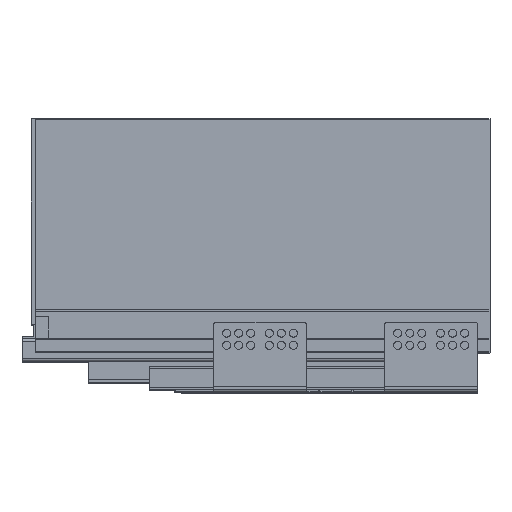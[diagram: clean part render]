
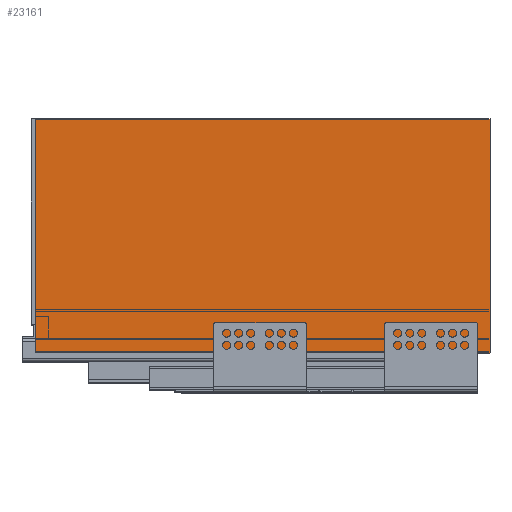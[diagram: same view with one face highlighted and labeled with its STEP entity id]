
A CAD part, top view. The second image highlights one B-rep face of the part: STEP entity #23161.
In plain terms, the highlighted planar face has unit normal (0, 0, 1).
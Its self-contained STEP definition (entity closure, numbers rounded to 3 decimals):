
#564=PLANE('',#24538);
#1511=FACE_OUTER_BOUND('',#2786,.T.);
#2786=EDGE_LOOP('',(#16185,#16186,#16187,#16188));
#4489=LINE('',#33407,#7120);
#4491=LINE('',#33411,#7122);
#4492=LINE('',#33413,#7123);
#4493=LINE('',#33414,#7124);
#7120=VECTOR('',#26883,10.);
#7122=VECTOR('',#26887,10.);
#7123=VECTOR('',#26888,10.);
#7124=VECTOR('',#26889,10.);
#10337=VERTEX_POINT('',#33404);
#10338=VERTEX_POINT('',#33406);
#10339=VERTEX_POINT('',#33410);
#10340=VERTEX_POINT('',#33412);
#12654=EDGE_CURVE('',#10337,#10338,#4489,.T.);
#12656=EDGE_CURVE('',#10337,#10339,#4491,.T.);
#12657=EDGE_CURVE('',#10339,#10340,#4492,.T.);
#12658=EDGE_CURVE('',#10340,#10338,#4493,.T.);
#16185=ORIENTED_EDGE('',*,*,#12656,.T.);
#16186=ORIENTED_EDGE('',*,*,#12657,.T.);
#16187=ORIENTED_EDGE('',*,*,#12658,.T.);
#16188=ORIENTED_EDGE('',*,*,#12654,.F.);
#23161=ADVANCED_FACE('',(#1511),#564,.F.);
#24538=AXIS2_PLACEMENT_3D('',#33409,#26885,#26886);
#26883=DIRECTION('',(1.,0.,0.));
#26885=DIRECTION('center_axis',(0.,0.,-1.));
#26886=DIRECTION('ref_axis',(0.,1.,0.));
#26887=DIRECTION('',(0.,-1.,0.));
#26888=DIRECTION('',(1.,0.,0.));
#26889=DIRECTION('',(0.,1.,0.));
#33404=CARTESIAN_POINT('',(0.,175.,535.));
#33406=CARTESIAN_POINT('',(340.,175.,535.));
#33407=CARTESIAN_POINT('',(0.,175.,535.));
#33409=CARTESIAN_POINT('Origin',(0.,0.,535.));
#33410=CARTESIAN_POINT('',(0.,0.,535.));
#33411=CARTESIAN_POINT('',(0.,175.,535.));
#33412=CARTESIAN_POINT('',(340.,0.,535.));
#33413=CARTESIAN_POINT('',(0.,0.,535.));
#33414=CARTESIAN_POINT('',(340.,175.,535.));
